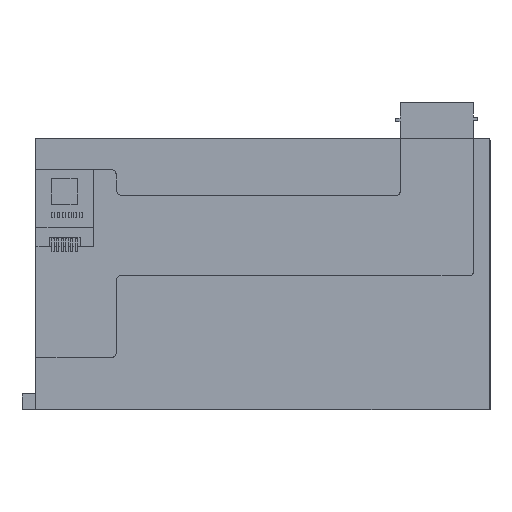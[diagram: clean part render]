
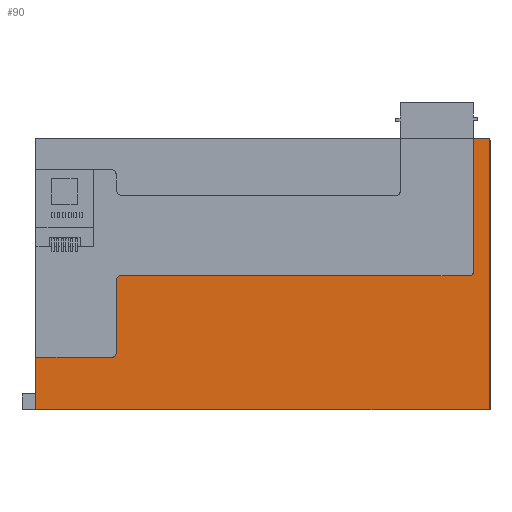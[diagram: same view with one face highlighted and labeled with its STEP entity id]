
A CAD part, top view. The second image highlights one B-rep face of the part: STEP entity #90.
In plain terms, the highlighted planar face has unit normal (0, 0, 1).
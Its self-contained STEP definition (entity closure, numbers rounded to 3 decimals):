
#22 = VERTEX_POINT('',#23);
#23 = CARTESIAN_POINT('',(-10.323,-31.639,0.));
#40 = VERTEX_POINT('',#41);
#41 = CARTESIAN_POINT('',(-26.294,-31.639,0.));
#47 = EDGE_CURVE('',#22,#40,#48,.T.);
#48 = LINE('',#49,#50);
#49 = CARTESIAN_POINT('',(-10.323,-31.639,0.));
#50 = VECTOR('',#51,1.);
#51 = DIRECTION('',(-1.,0.,0.));
#72 = VERTEX_POINT('',#73);
#73 = CARTESIAN_POINT('',(-9.294,-30.611,0.));
#79 = EDGE_CURVE('',#22,#72,#80,.T.);
#80 = CIRCLE('',#81,1.029);
#81 = AXIS2_PLACEMENT_3D('',#82,#83,#84);
#82 = CARTESIAN_POINT('',(-10.323,-30.611,0.));
#83 = DIRECTION('',(0.,0.,1.));
#84 = DIRECTION('',(1.,0.,0.));
#90 = ADVANCED_FACE('',(#91),#167,.T.);
#91 = FACE_BOUND('',#92,.T.);
#92 = EDGE_LOOP('',(#93,#101,#109,#117,#125,#133,#142,#150,#159,#165,
    #166));
#93 = ORIENTED_EDGE('',*,*,#94,.F.);
#94 = EDGE_CURVE('',#95,#40,#97,.T.);
#95 = VERTEX_POINT('',#96);
#96 = CARTESIAN_POINT('',(-26.294,-42.639,0.));
#97 = LINE('',#98,#99);
#98 = CARTESIAN_POINT('',(-26.294,-42.639,0.));
#99 = VECTOR('',#100,1.);
#100 = DIRECTION('',(0.,1.,0.));
#101 = ORIENTED_EDGE('',*,*,#102,.F.);
#102 = EDGE_CURVE('',#103,#95,#105,.T.);
#103 = VERTEX_POINT('',#104);
#104 = CARTESIAN_POINT('',(69.506,-42.639,0.));
#105 = LINE('',#106,#107);
#106 = CARTESIAN_POINT('',(69.506,-42.639,0.));
#107 = VECTOR('',#108,1.);
#108 = DIRECTION('',(-1.,0.,0.));
#109 = ORIENTED_EDGE('',*,*,#110,.F.);
#110 = EDGE_CURVE('',#111,#103,#113,.T.);
#111 = VERTEX_POINT('',#112);
#112 = CARTESIAN_POINT('',(69.506,14.561,0.));
#113 = LINE('',#114,#115);
#114 = CARTESIAN_POINT('',(69.506,14.561,0.));
#115 = VECTOR('',#116,1.);
#116 = DIRECTION('',(0.,-1.,0.));
#117 = ORIENTED_EDGE('',*,*,#118,.F.);
#118 = EDGE_CURVE('',#119,#111,#121,.T.);
#119 = VERTEX_POINT('',#120);
#120 = CARTESIAN_POINT('',(66.206,14.561,0.));
#121 = LINE('',#122,#123);
#122 = CARTESIAN_POINT('',(-26.294,14.561,0.));
#123 = VECTOR('',#124,1.);
#124 = DIRECTION('',(1.,0.,0.));
#125 = ORIENTED_EDGE('',*,*,#126,.T.);
#126 = EDGE_CURVE('',#119,#127,#129,.T.);
#127 = VERTEX_POINT('',#128);
#128 = CARTESIAN_POINT('',(66.206,-13.618,0.));
#129 = LINE('',#130,#131);
#130 = CARTESIAN_POINT('',(66.206,18.361,0.));
#131 = VECTOR('',#132,1.);
#132 = DIRECTION('',(0.,-1.,0.));
#133 = ORIENTED_EDGE('',*,*,#134,.F.);
#134 = EDGE_CURVE('',#135,#127,#137,.T.);
#135 = VERTEX_POINT('',#136);
#136 = CARTESIAN_POINT('',(65.484,-14.339,0.));
#137 = CIRCLE('',#138,0.722);
#138 = AXIS2_PLACEMENT_3D('',#139,#140,#141);
#139 = CARTESIAN_POINT('',(65.484,-13.618,0.));
#140 = DIRECTION('',(0.,0.,1.));
#141 = DIRECTION('',(1.,0.,0.));
#142 = ORIENTED_EDGE('',*,*,#143,.T.);
#143 = EDGE_CURVE('',#135,#144,#146,.T.);
#144 = VERTEX_POINT('',#145);
#145 = CARTESIAN_POINT('',(-8.146,-14.339,0.));
#146 = LINE('',#147,#148);
#147 = CARTESIAN_POINT('',(65.484,-14.339,0.));
#148 = VECTOR('',#149,1.);
#149 = DIRECTION('',(-1.,0.,0.));
#150 = ORIENTED_EDGE('',*,*,#151,.T.);
#151 = EDGE_CURVE('',#144,#152,#154,.T.);
#152 = VERTEX_POINT('',#153);
#153 = CARTESIAN_POINT('',(-9.294,-15.487,0.));
#154 = CIRCLE('',#155,1.148);
#155 = AXIS2_PLACEMENT_3D('',#156,#157,#158);
#156 = CARTESIAN_POINT('',(-8.146,-15.487,0.));
#157 = DIRECTION('',(0.,0.,1.));
#158 = DIRECTION('',(1.,0.,0.));
#159 = ORIENTED_EDGE('',*,*,#160,.T.);
#160 = EDGE_CURVE('',#152,#72,#161,.T.);
#161 = LINE('',#162,#163);
#162 = CARTESIAN_POINT('',(-9.294,-15.487,0.));
#163 = VECTOR('',#164,1.);
#164 = DIRECTION('',(0.,-1.,0.));
#165 = ORIENTED_EDGE('',*,*,#79,.F.);
#166 = ORIENTED_EDGE('',*,*,#47,.T.);
#167 = PLANE('',#168);
#168 = AXIS2_PLACEMENT_3D('',#169,#170,#171);
#169 = CARTESIAN_POINT('',(21.606,-14.039,0.));
#170 = DIRECTION('',(0.,0.,1.));
#171 = DIRECTION('',(1.,0.,0.));
